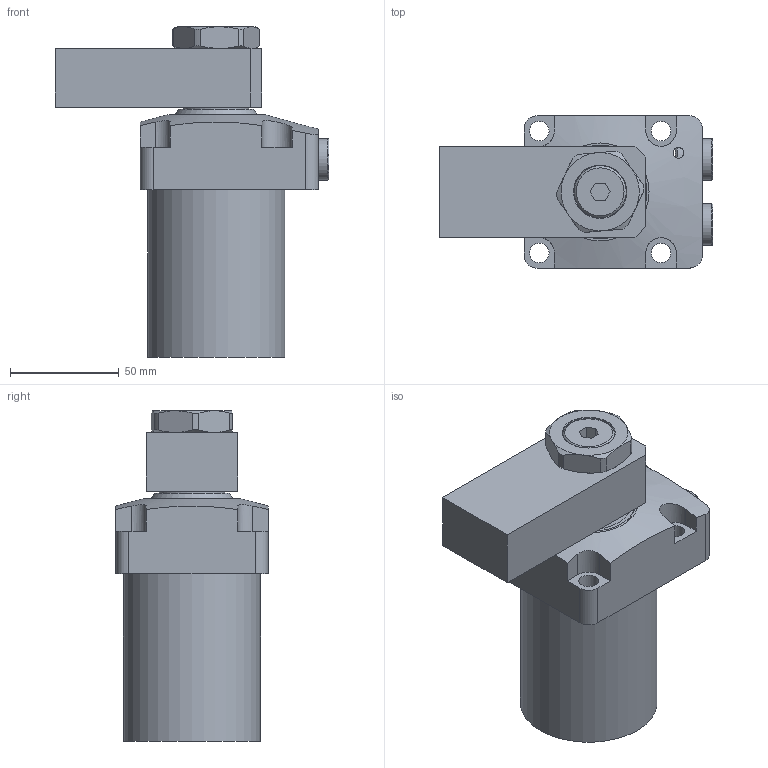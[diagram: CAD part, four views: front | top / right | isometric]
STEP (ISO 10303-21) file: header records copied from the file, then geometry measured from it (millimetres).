
FILE_DESCRIPTION(/* description */ (''),/* implementation_level */ '2;1');
FILE_NAME(/* name */ 'TRC10-L(带锥套-压板).stp',/* time_stamp */ '2025-07-21T11:23:16+08:00',/* author */ (''),/* organization */ (''),/* preprocessor_version */ 'ST-DEVELOPER v16.7',/* originating_system */ 'SIEMENS PLM Software NX 12.0',/* authorisation */ '');
FILE_SCHEMA (('AP203_CONFIGURATION_CONTROLLED_3D_DESIGN_OF_MECHANICAL_PARTS_AND_ASSEMBLIES_MIM_LF { 1 0 10303 403 2 1 2}'));
Length unit declared in the file: millimetre
Products named in the file (1): 123FE38B2C6q4l1
Bounding box: 125.8 x 70 x 152 mm (x, y, z)
Volume: 490128.5 mm3; surface area: 77325.8 mm2
Topology: 6 solids, 7 shells, 167 faces, 391 edges, 252 vertices
Faces by surface type: plane 82, cylinder 48, cone 31, torus 5, sphere 1
Full cylindrical faces by diameter (mm): 5 x2, 9 x4, 11 x2, 11.2 x2, 11.6 x2, 13.157 x4, 19 x2, 21.5 x2, 22 x1, 24 x2, 30 x2, 34 x1, 42 x1, 63 x1
Entity records: 6064 total; most frequent: CARTESIAN_POINT 1299, DIRECTION 716, ORIENTED_EDGE 660, EDGE_CURVE 330, AXIS2_PLACEMENT_3D 287, EDGE_LOOP 243, VERTEX_POINT 237, ADVANCED_FACE 167
